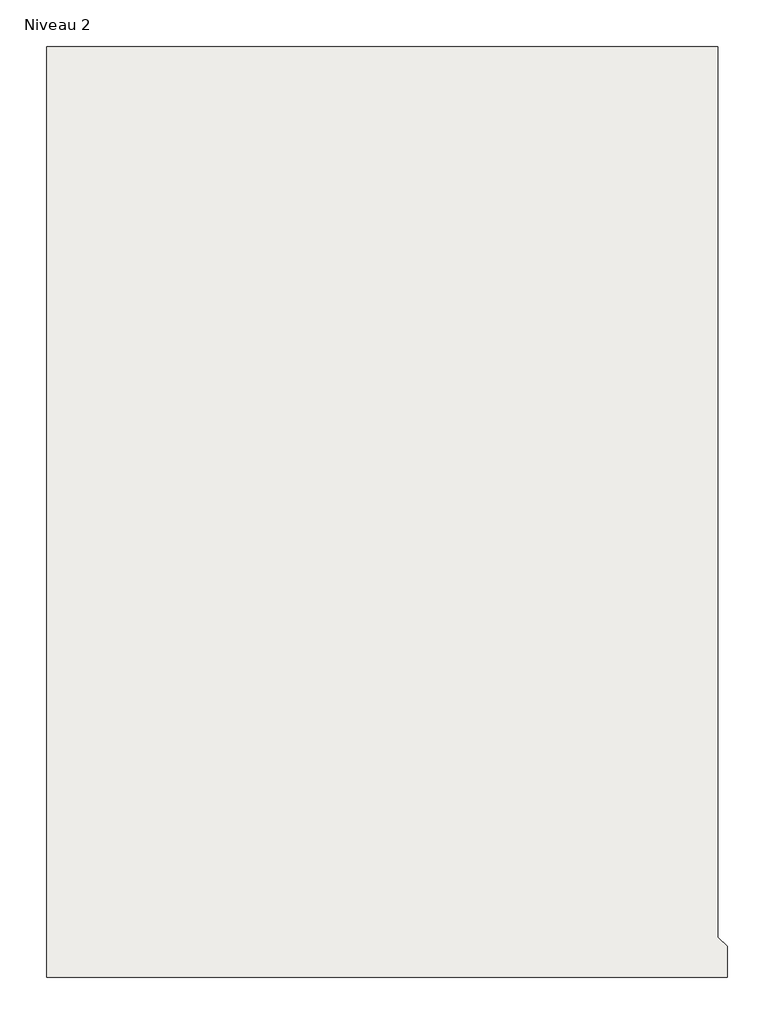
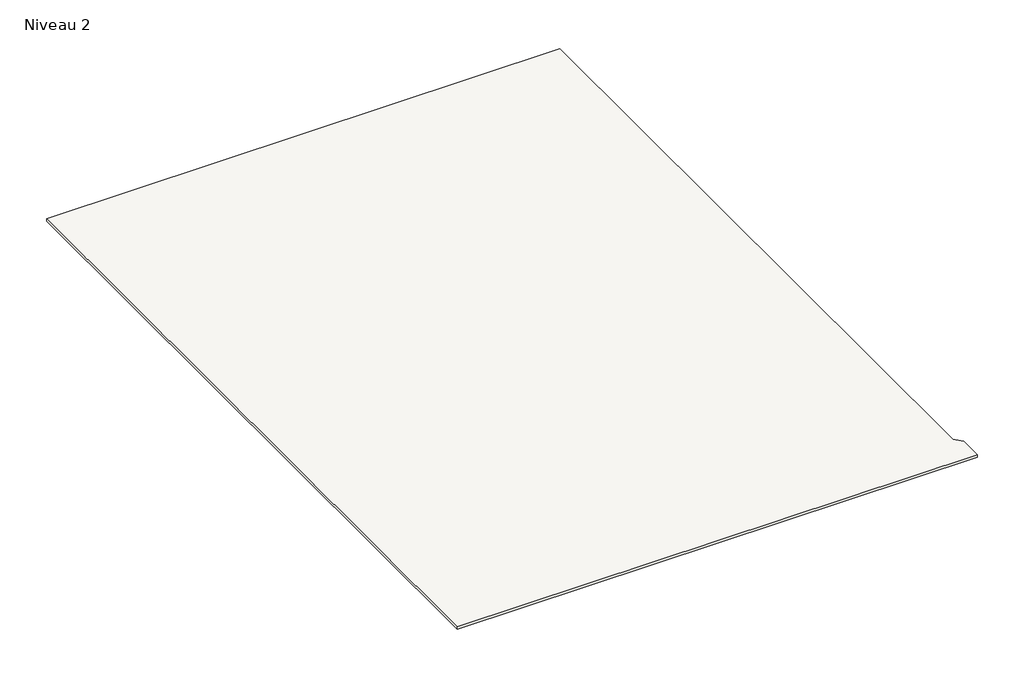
# One storey: 1 roof.
"""IFC4 building model written with IfcOpenShell, lengths in millimetres."""

from ifc_helpers import new_model, si_unit, frame, origin, place, context, project, spatial, polyline, outline, extrude, element, save

model = new_model("IFC4")

# Units and contexts
model_context = context("Model", 3, world=origin())
ifc_project = project(units=[si_unit("LENGTHUNIT", "METRE", prefix="MILLI")], contexts=[model_context])

# Site, building, storey
site = spatial("IfcSite", under=ifc_project)
building = spatial("IfcBuilding", under=site)
storey = spatial("IfcBuildingStorey", under=building, Name="Niveau 2", Elevation=5000.0)

# Roof
placement = place(None, origin())
element("IfcRoof", 1, ObjectType="Toit - 200 mm", at=placement, inside=storey, context=model_context, shape_type="SweptSolid", body=[
    extrude(outline(polyline([(-3324.0223723, 7207.9869007), (34343.774089, 7207.9869007), (34343.774089, -42765.7934592), (34868.8765426, -43290.8959128), (34868.8765426, -45029.4438071), (-3324.0223723, -45029.4438071), (-3324.0223723, 7207.9869007)])), frame((0.0, 0.0, 5000.0), z_axis=(0.0, 0.0, 1.0), x_axis=(1.0, 0.0, 0.0)), (0.0, 0.0, 1.0), 200.0),
])

save(model, "model.ifc")
